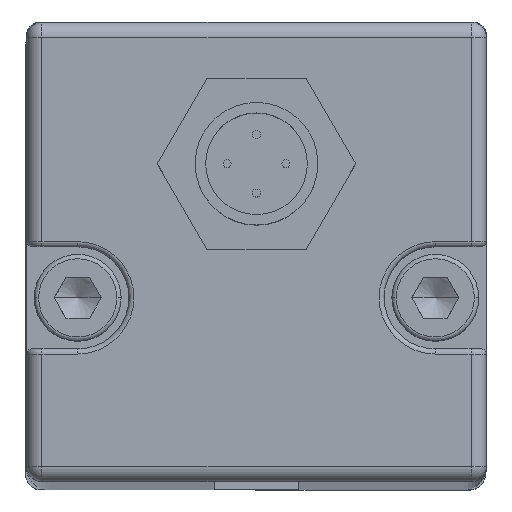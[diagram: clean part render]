
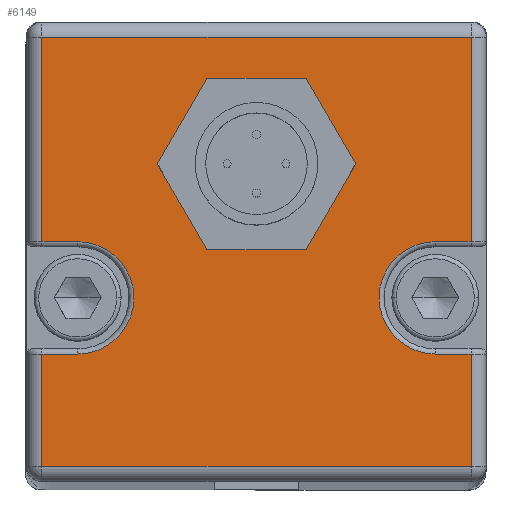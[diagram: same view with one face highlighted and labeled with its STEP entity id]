
A CAD part, top view. The second image highlights one B-rep face of the part: STEP entity #6149.
In plain terms, the highlighted planar face has unit normal (0, 0, 1) as drawn and (0, 1, 0) by its records, which use the part's own axes.
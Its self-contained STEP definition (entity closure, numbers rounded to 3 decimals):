
#1070 = ORIENTED_EDGE ( 'NONE', *, *, #4871, .T. ) ;
#1092 = ORIENTED_EDGE ( 'NONE', *, *, #4872, .F. ) ;
#1096 = ORIENTED_EDGE ( 'NONE', *, *, #4885, .T. ) ;
#1109 = ORIENTED_EDGE ( 'NONE', *, *, #4900, .T. ) ;
#1112 = ORIENTED_EDGE ( 'NONE', *, *, #4902, .T. ) ;
#1154 = ORIENTED_EDGE ( 'NONE', *, *, #4869, .T. ) ;
#1613 = CIRCLE ( 'NONE', #4637, 6.5 ) ;
#2761 = CARTESIAN_POINT ( 'NONE',  ( -21., 7., -1. ) ) ;
#2767 = CARTESIAN_POINT ( 'NONE',  ( -21., 7., -21. ) ) ;
#2769 = CARTESIAN_POINT ( 'NONE',  ( 21., 7., -21. ) ) ;
#2776 = CARTESIAN_POINT ( 'NONE',  ( 17.5, 7., 10. ) ) ;
#2777 = CARTESIAN_POINT ( 'NONE',  ( 21., 7., 10. ) ) ;
#2781 = CARTESIAN_POINT ( 'NONE',  ( -21., 7., 10. ) ) ;
#2786 = CARTESIAN_POINT ( 'NONE',  ( 17.5, 7., -1. ) ) ;
#2789 = CARTESIAN_POINT ( 'NONE',  ( 21., 7., -1. ) ) ;
#2796 = CARTESIAN_POINT ( 'NONE',  ( -17.5, 7., -1. ) ) ;
#2808 = CARTESIAN_POINT ( 'NONE',  ( -21., 7., 21. ) ) ;
#2823 = CARTESIAN_POINT ( 'NONE',  ( -17.5, 7., 10. ) ) ;
#2847 = CARTESIAN_POINT ( 'NONE',  ( 0., 7., -2.1 ) ) ;
#2874 = CARTESIAN_POINT ( 'NONE',  ( 0., 7., -15.1 ) ) ;
#2956 = CARTESIAN_POINT ( 'NONE',  ( 21., 7., 21. ) ) ;
#3181 = CARTESIAN_POINT ( 'NONE',  ( 17.5, 7., 4.5 ) ) ;
#3186 = CARTESIAN_POINT ( 'NONE',  ( 22.5, 7., -1. ) ) ;
#3193 = DIRECTION ( 'NONE',  ( 0., -1., 0. ) ) ;
#3194 = DIRECTION ( 'NONE',  ( 0., 0., 1. ) ) ;
#3195 = CARTESIAN_POINT ( 'NONE',  ( 22.5, 7., 10. ) ) ;
#3196 = DIRECTION ( 'NONE',  ( 1., 0., 0. ) ) ;
#3197 = CARTESIAN_POINT ( 'NONE',  ( -21., 7., 22.5 ) ) ;
#3200 = CARTESIAN_POINT ( 'NONE',  ( 0., 7., -8.6 ) ) ;
#3201 = DIRECTION ( 'NONE',  ( -1., 0., 0. ) ) ;
#3202 = DIRECTION ( 'NONE',  ( 0., 1., 0. ) ) ;
#3203 = DIRECTION ( 'NONE',  ( 0., 0., 1. ) ) ;
#3205 = DIRECTION ( 'NONE',  ( 0., 0., 1. ) ) ;
#3212 = CARTESIAN_POINT ( 'NONE',  ( 21., 7., 9.5 ) ) ;
#3213 = DIRECTION ( 'NONE',  ( 0., 0., -1. ) ) ;
#3220 = CARTESIAN_POINT ( 'NONE',  ( -17.5, 7., 4.5 ) ) ;
#3230 = CARTESIAN_POINT ( 'NONE',  ( 22.5, 7., 10. ) ) ;
#3231 = DIRECTION ( 'NONE',  ( -1., 0., 0. ) ) ;
#3236 = CARTESIAN_POINT ( 'NONE',  ( 22.5, 7., 21. ) ) ;
#3237 = DIRECTION ( 'NONE',  ( 1., 0., 0. ) ) ;
#3248 = CARTESIAN_POINT ( 'NONE',  ( 21., 7., -22.5 ) ) ;
#3249 = DIRECTION ( 'NONE',  ( 0., 0., -1. ) ) ;
#3251 = DIRECTION ( 'NONE',  ( 0., -1., 0. ) ) ;
#3252 = DIRECTION ( 'NONE',  ( 0., 0., 1. ) ) ;
#3255 = CARTESIAN_POINT ( 'NONE',  ( 22.5, 7., -21. ) ) ;
#3256 = DIRECTION ( 'NONE',  ( -1., 0., 0. ) ) ;
#3261 = CARTESIAN_POINT ( 'NONE',  ( 22.5, 7., -1. ) ) ;
#3262 = DIRECTION ( 'NONE',  ( 1., 0., 0. ) ) ;
#3265 = CARTESIAN_POINT ( 'NONE',  ( -21., 7., 22.5 ) ) ;
#3266 = DIRECTION ( 'NONE',  ( 0., 0., 1. ) ) ;
#4163 = AXIS2_PLACEMENT_3D ( 'NONE', #7028, #7070, #7071 ) ;
#4366 = FACE_OUTER_BOUND ( 'NONE', #7606, .T. ) ;
#4368 = FACE_BOUND ( 'NONE', #7625, .T. ) ;
#4637 = AXIS2_PLACEMENT_3D ( 'NONE', #9227, #9236, #9237 ) ;
#4868 = EDGE_CURVE ( 'NONE', #5495, #5505, #5876, .T. ) ;
#4869 = EDGE_CURVE ( 'NONE', #5484, #5515, #5875, .T. ) ;
#4871 = EDGE_CURVE ( 'NONE', #5496, #5495, #5869, .T. ) ;
#4872 = EDGE_CURVE ( 'NONE', #5569, #5596, #5883, .T. ) ;
#4873 = EDGE_CURVE ( 'NONE', #5486, #5484, #5882, .T. ) ;
#4877 = EDGE_CURVE ( 'NONE', #5678, #5496, #5890, .T. ) ;
#4885 = EDGE_CURVE ( 'NONE', #5545, #5500, #5897, .T. ) ;
#4888 = EDGE_CURVE ( 'NONE', #5530, #5678, #5911, .T. ) ;
#4894 = EDGE_CURVE ( 'NONE', #5508, #5488, #5923, .T. ) ;
#4895 = EDGE_CURVE ( 'NONE', #5515, #5545, #5927, .T. ) ;
#4897 = EDGE_CURVE ( 'NONE', #5488, #5486, #5928, .T. ) ;
#4900 = EDGE_CURVE ( 'NONE', #5505, #5508, #5934, .T. ) ;
#4902 = EDGE_CURVE ( 'NONE', #5500, #5530, #5938, .T. ) ;
#5330 = ORIENTED_EDGE ( 'NONE', *, *, #8070, .F. ) ;
#5345 = ORIENTED_EDGE ( 'NONE', *, *, #4888, .T. ) ;
#5361 = ORIENTED_EDGE ( 'NONE', *, *, #4868, .T. ) ;
#5369 = ORIENTED_EDGE ( 'NONE', *, *, #4895, .T. ) ;
#5383 = ORIENTED_EDGE ( 'NONE', *, *, #4877, .T. ) ;
#5398 = ORIENTED_EDGE ( 'NONE', *, *, #4897, .T. ) ;
#5408 = ORIENTED_EDGE ( 'NONE', *, *, #4873, .T. ) ;
#5423 = ORIENTED_EDGE ( 'NONE', *, *, #4894, .T. ) ;
#5484 = VERTEX_POINT ( 'NONE', #2761 ) ;
#5486 = VERTEX_POINT ( 'NONE', #2767 ) ;
#5488 = VERTEX_POINT ( 'NONE', #2769 ) ;
#5495 = VERTEX_POINT ( 'NONE', #2776 ) ;
#5496 = VERTEX_POINT ( 'NONE', #2777 ) ;
#5500 = VERTEX_POINT ( 'NONE', #2781 ) ;
#5505 = VERTEX_POINT ( 'NONE', #2786 ) ;
#5508 = VERTEX_POINT ( 'NONE', #2789 ) ;
#5515 = VERTEX_POINT ( 'NONE', #2796 ) ;
#5530 = VERTEX_POINT ( 'NONE', #2808 ) ;
#5545 = VERTEX_POINT ( 'NONE', #2823 ) ;
#5569 = VERTEX_POINT ( 'NONE', #2847 ) ;
#5596 = VERTEX_POINT ( 'NONE', #2874 ) ;
#5678 = VERTEX_POINT ( 'NONE', #2956 ) ;
#5866 = VECTOR ( 'NONE', #3196, 1000. ) ;
#5869 = LINE ( 'NONE', #3195, #5879 ) ;
#5870 = VECTOR ( 'NONE', #3205, 1000. ) ;
#5875 = LINE ( 'NONE', #3186, #5866 ) ;
#5876 = CIRCLE ( 'NONE', #6600, 5.5 ) ;
#5879 = VECTOR ( 'NONE', #3201, 1000. ) ;
#5882 = LINE ( 'NONE', #3197, #5870 ) ;
#5883 = CIRCLE ( 'NONE', #6605, 6.5 ) ;
#5890 = LINE ( 'NONE', #3212, #5891 ) ;
#5891 = VECTOR ( 'NONE', #3213, 1000. ) ;
#5895 = VECTOR ( 'NONE', #3231, 1000. ) ;
#5897 = LINE ( 'NONE', #3230, #5895 ) ;
#5911 = LINE ( 'NONE', #3236, #5912 ) ;
#5912 = VECTOR ( 'NONE', #3237, 1000. ) ;
#5923 = LINE ( 'NONE', #3248, #5924 ) ;
#5924 = VECTOR ( 'NONE', #3249, 1000. ) ;
#5927 = CIRCLE ( 'NONE', #6606, 5.5 ) ;
#5928 = LINE ( 'NONE', #3255, #5929 ) ;
#5929 = VECTOR ( 'NONE', #3256, 1000. ) ;
#5934 = LINE ( 'NONE', #3261, #5935 ) ;
#5935 = VECTOR ( 'NONE', #3262, 1000. ) ;
#5938 = LINE ( 'NONE', #3265, #5939 ) ;
#5939 = VECTOR ( 'NONE', #3266, 1000. ) ;
#6149 = ADVANCED_FACE ( 'NONE', ( #4368, #4366 ), #7069, .T. ) ;
#6600 = AXIS2_PLACEMENT_3D ( 'NONE', #3181, #3193, #3194 ) ;
#6605 = AXIS2_PLACEMENT_3D ( 'NONE', #3200, #3202, #3203 ) ;
#6606 = AXIS2_PLACEMENT_3D ( 'NONE', #3220, #3251, #3252 ) ;
#7028 = CARTESIAN_POINT ( 'NONE',  ( 22.5, 7., 22.5 ) ) ;
#7069 = PLANE ( 'NONE',  #4163 ) ;
#7070 = DIRECTION ( 'NONE',  ( 0., 1., 0. ) ) ;
#7071 = DIRECTION ( 'NONE',  ( 0., 0., 1. ) ) ;
#7606 = EDGE_LOOP ( 'NONE', ( #5383, #1070, #5361, #1109, #5423, #5398, #5408, #1154, #5369, #1096, #1112, #5345 ) ) ;
#7625 = EDGE_LOOP ( 'NONE', ( #1092, #5330 ) ) ;
#8070 = EDGE_CURVE ( 'NONE', #5596, #5569, #1613, .T. ) ;
#9227 = CARTESIAN_POINT ( 'NONE',  ( 0., 7., -8.6 ) ) ;
#9236 = DIRECTION ( 'NONE',  ( 0., 1., 0. ) ) ;
#9237 = DIRECTION ( 'NONE',  ( 0., 0., 1. ) ) ;
